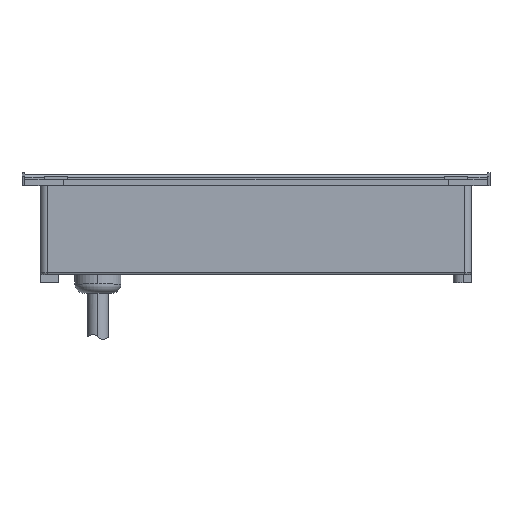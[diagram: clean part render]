
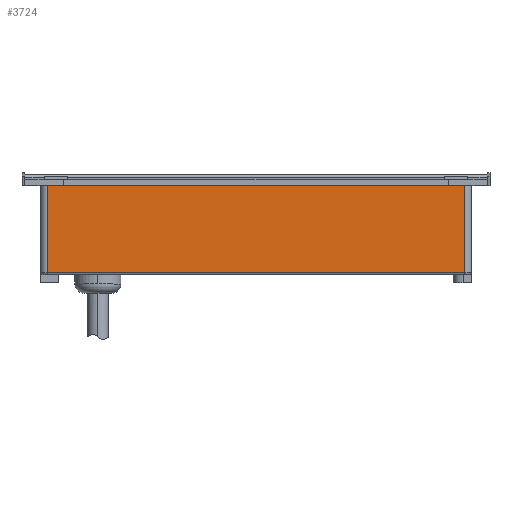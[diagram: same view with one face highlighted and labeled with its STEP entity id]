
A CAD part, top view. The second image highlights one B-rep face of the part: STEP entity #3724.
In plain terms, the highlighted planar face has unit normal (0, 0, 1).
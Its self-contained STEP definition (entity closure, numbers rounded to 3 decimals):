
#149 = CARTESIAN_POINT ( 'NONE',  ( 90.65, 1., 25.75 ) ) ;
#169 = ORIENTED_EDGE ( 'NONE', *, *, #7756, .T. ) ;
#439 = DIRECTION ( 'NONE',  ( 1., 0., 0. ) ) ;
#474 = CARTESIAN_POINT ( 'NONE',  ( 90.65, 1., 25.75 ) ) ;
#508 = ORIENTED_EDGE ( 'NONE', *, *, #5995, .T. ) ;
#587 = VERTEX_POINT ( 'NONE', #2334 ) ;
#615 = VECTOR ( 'NONE', #5422, 1000. ) ;
#655 = CARTESIAN_POINT ( 'NONE',  ( -90.65, 41.5, 25.75 ) ) ;
#1032 = PLANE ( 'NONE',  #3292 ) ;
#1079 = EDGE_LOOP ( 'NONE', ( #508, #2254, #169, #7210 ) ) ;
#1392 = VECTOR ( 'NONE', #439, 1000. ) ;
#2254 = ORIENTED_EDGE ( 'NONE', *, *, #7866, .T. ) ;
#2265 = DIRECTION ( 'NONE',  ( -1., 0., 0. ) ) ;
#2310 = VECTOR ( 'NONE', #4260, 1000. ) ;
#2334 = CARTESIAN_POINT ( 'NONE',  ( 90.65, 38.8, 25.75 ) ) ;
#2948 = LINE ( 'NONE', #474, #615 ) ;
#3165 = VERTEX_POINT ( 'NONE', #7175 ) ;
#3252 = VERTEX_POINT ( 'NONE', #149 ) ;
#3292 = AXIS2_PLACEMENT_3D ( 'NONE', #6702, #6049, #2265 ) ;
#3707 = CARTESIAN_POINT ( 'NONE',  ( -90.65, 1., 25.75 ) ) ;
#3724 = ADVANCED_FACE ( 'NONE', ( #7906 ), #1032, .F. ) ;
#4183 = LINE ( 'NONE', #5554, #1392 ) ;
#4260 = DIRECTION ( 'NONE',  ( 0., 1., 0. ) ) ;
#4764 = CARTESIAN_POINT ( 'NONE',  ( 90.65, 41.5, 25.75 ) ) ;
#4797 = LINE ( 'NONE', #4764, #2310 ) ;
#4991 = VERTEX_POINT ( 'NONE', #3707 ) ;
#5422 = DIRECTION ( 'NONE',  ( 1., 0., 0. ) ) ;
#5554 = CARTESIAN_POINT ( 'NONE',  ( -90.65, 38.8, 25.75 ) ) ;
#5995 = EDGE_CURVE ( 'NONE', #3165, #4991, #6336, .T. ) ;
#6049 = DIRECTION ( 'NONE',  ( 0., 0., -1. ) ) ;
#6299 = EDGE_CURVE ( 'NONE', #3165, #587, #4183, .T. ) ;
#6336 = LINE ( 'NONE', #655, #7152 ) ;
#6702 = CARTESIAN_POINT ( 'NONE',  ( -93.65, 41.5, 25.75 ) ) ;
#7034 = DIRECTION ( 'NONE',  ( 0., -1., 0. ) ) ;
#7152 = VECTOR ( 'NONE', #7034, 1000. ) ;
#7175 = CARTESIAN_POINT ( 'NONE',  ( -90.65, 38.8, 25.75 ) ) ;
#7210 = ORIENTED_EDGE ( 'NONE', *, *, #6299, .F. ) ;
#7756 = EDGE_CURVE ( 'NONE', #3252, #587, #4797, .T. ) ;
#7866 = EDGE_CURVE ( 'NONE', #4991, #3252, #2948, .T. ) ;
#7906 = FACE_OUTER_BOUND ( 'NONE', #1079, .T. ) ;
